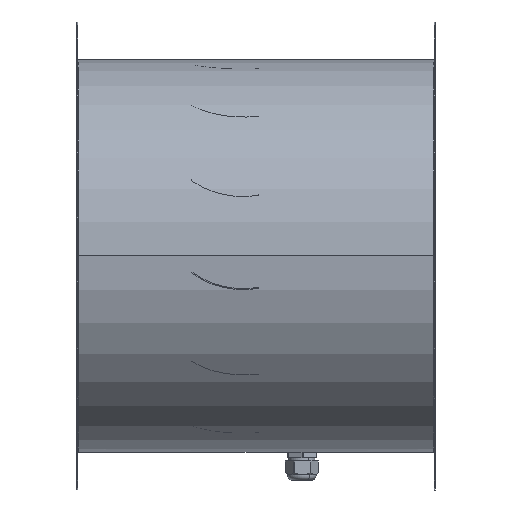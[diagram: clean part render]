
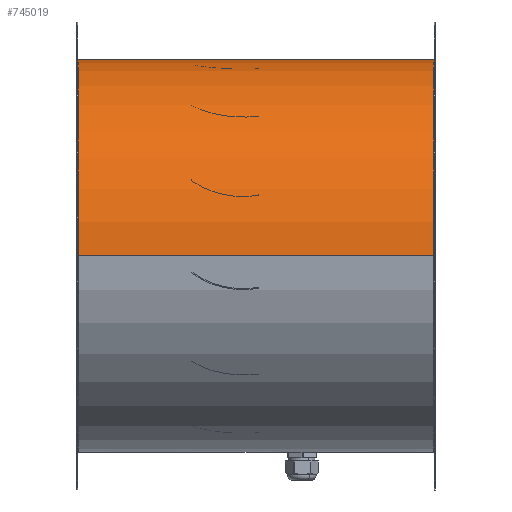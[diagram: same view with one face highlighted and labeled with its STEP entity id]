
A CAD part, top view. The second image highlights one B-rep face of the part: STEP entity #745019.
In plain terms, the highlighted cylindrical face has radius 201.25 mm (diameter 402.5 mm), a partial arc.
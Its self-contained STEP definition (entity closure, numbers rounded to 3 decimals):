
#6123 = DIRECTION ( 'NONE',  ( 1., 0., 0. ) ) ;
#10483 = LINE ( 'NONE', #108294, #341210 ) ;
#21350 = ORIENTED_EDGE ( 'NONE', *, *, #464435, .T. ) ;
#22162 = DIRECTION ( 'NONE',  ( 1., 0., 0. ) ) ;
#28507 = CARTESIAN_POINT ( 'NONE',  ( 264.5, 3.019, -201.227 ) ) ;
#31516 = CYLINDRICAL_SURFACE ( 'NONE', #72820, 201.25 ) ;
#53107 = CARTESIAN_POINT ( 'NONE',  ( -98.5, 0., 0. ) ) ;
#63944 = CARTESIAN_POINT ( 'NONE',  ( -98.5, 0., -201.25 ) ) ;
#65512 = ORIENTED_EDGE ( 'NONE', *, *, #483323, .F. ) ;
#70115 = CARTESIAN_POINT ( 'NONE',  ( -98.5, 0., -201.25 ) ) ;
#72621 = VECTOR ( 'NONE', #281962, 1000. ) ;
#72820 = AXIS2_PLACEMENT_3D ( 'NONE', #797503, #6123, #335413 ) ;
#82657 = CARTESIAN_POINT ( 'NONE',  ( -98.5, 3.019, -201.227 ) ) ;
#87011 = CARTESIAN_POINT ( 'NONE',  ( 265.125, 0., 0. ) ) ;
#87232 = EDGE_CURVE ( 'NONE', #405124, #447678, #159408, .T. ) ;
#108294 = CARTESIAN_POINT ( 'NONE',  ( -98.5, 0., -201.25 ) ) ;
#119533 = DIRECTION ( 'NONE',  ( 0., 0., 1. ) ) ;
#126804 = ORIENTED_EDGE ( 'NONE', *, *, #87232, .T. ) ;
#134357 = DIRECTION ( 'NONE',  ( 1., 0., 0. ) ) ;
#138680 = VECTOR ( 'NONE', #264525, 1000. ) ;
#142063 = CARTESIAN_POINT ( 'NONE',  ( -98.5, 0., 0. ) ) ;
#152048 = CIRCLE ( 'NONE', #358827, 201.25 ) ;
#153456 = DIRECTION ( 'NONE',  ( 0., 0., 1. ) ) ;
#155139 = DIRECTION ( 'NONE',  ( 1., 0., 0. ) ) ;
#159408 = LINE ( 'NONE', #394519, #138680 ) ;
#168308 = ORIENTED_EDGE ( 'NONE', *, *, #212312, .F. ) ;
#186081 = CIRCLE ( 'NONE', #678927, 201.25 ) ;
#186528 = ORIENTED_EDGE ( 'NONE', *, *, #813360, .T. ) ;
#191849 = CARTESIAN_POINT ( 'NONE',  ( -98.5, 3., -201.228 ) ) ;
#200756 = EDGE_CURVE ( 'NONE', #267826, #447678, #342017, .T. ) ;
#208516 = DIRECTION ( 'NONE',  ( 0., 0., 1. ) ) ;
#208788 = EDGE_CURVE ( 'NONE', #838041, #639958, #248405, .T. ) ;
#212312 = EDGE_CURVE ( 'NONE', #737970, #295815, #10483, .T. ) ;
#218607 = ORIENTED_EDGE ( 'NONE', *, *, #200756, .F. ) ;
#222790 = CIRCLE ( 'NONE', #721219, 201.25 ) ;
#238714 = CARTESIAN_POINT ( 'NONE',  ( 264.5, 3., -201.228 ) ) ;
#248405 = LINE ( 'NONE', #82657, #72621 ) ;
#253690 = EDGE_LOOP ( 'NONE', ( #168308, #186528, #126804, #218607, #65512, #21350, #508871, #415248, #705862, #743974 ) ) ;
#260415 = DIRECTION ( 'NONE',  ( 1., 0., 0. ) ) ;
#264525 = DIRECTION ( 'NONE',  ( 1., 0., 0. ) ) ;
#267826 = VERTEX_POINT ( 'NONE', #461585 ) ;
#281962 = DIRECTION ( 'NONE',  ( 1., 0., 0. ) ) ;
#289756 = EDGE_CURVE ( 'NONE', #586635, #838041, #222790, .T. ) ;
#295815 = VERTEX_POINT ( 'NONE', #70115 ) ;
#335413 = DIRECTION ( 'NONE',  ( 0., 0., 1. ) ) ;
#338111 = CARTESIAN_POINT ( 'NONE',  ( -99.125, 0., 201.25 ) ) ;
#341210 = VECTOR ( 'NONE', #437615, 1000. ) ;
#342017 = CIRCLE ( 'NONE', #620032, 201.25 ) ;
#356326 = CARTESIAN_POINT ( 'NONE',  ( -99.125, 0., -201.25 ) ) ;
#358827 = AXIS2_PLACEMENT_3D ( 'NONE', #530048, #134357, #596440 ) ;
#394519 = CARTESIAN_POINT ( 'NONE',  ( -98.5, 0., 201.25 ) ) ;
#405124 = VERTEX_POINT ( 'NONE', #338111 ) ;
#415248 = ORIENTED_EDGE ( 'NONE', *, *, #208788, .F. ) ;
#417872 = CARTESIAN_POINT ( 'NONE',  ( -99.125, 0., 0. ) ) ;
#437615 = DIRECTION ( 'NONE',  ( 1., 0., 0. ) ) ;
#440704 = CARTESIAN_POINT ( 'NONE',  ( 265.125, 0., 201.25 ) ) ;
#447678 = VERTEX_POINT ( 'NONE', #440704 ) ;
#461585 = CARTESIAN_POINT ( 'NONE',  ( 265.125, 0., -201.25 ) ) ;
#464435 = EDGE_CURVE ( 'NONE', #836147, #546583, #700858, .T. ) ;
#483323 = EDGE_CURVE ( 'NONE', #836147, #267826, #555024, .T. ) ;
#484286 = DIRECTION ( 'NONE',  ( 0., 0., 1. ) ) ;
#508871 = ORIENTED_EDGE ( 'NONE', *, *, #649084, .T. ) ;
#515238 = DIRECTION ( 'NONE',  ( 1., 0., 0. ) ) ;
#530048 = CARTESIAN_POINT ( 'NONE',  ( 264.5, 0., 0. ) ) ;
#534324 = VECTOR ( 'NONE', #260415, 1000. ) ;
#546583 = VERTEX_POINT ( 'NONE', #238714 ) ;
#549133 = DIRECTION ( 'NONE',  ( 1., 0., 0. ) ) ;
#550826 = CARTESIAN_POINT ( 'NONE',  ( 264.5, 0., 0. ) ) ;
#555024 = LINE ( 'NONE', #63944, #534324 ) ;
#558639 = FACE_OUTER_BOUND ( 'NONE', #253690, .T. ) ;
#586635 = VERTEX_POINT ( 'NONE', #191849 ) ;
#596440 = DIRECTION ( 'NONE',  ( 0., 0., 1. ) ) ;
#604146 = DIRECTION ( 'NONE',  ( 1., 0., 0. ) ) ;
#604497 = EDGE_CURVE ( 'NONE', #295815, #586635, #186081, .T. ) ;
#617237 = DIRECTION ( 'NONE',  ( 0., 0., 1. ) ) ;
#620032 = AXIS2_PLACEMENT_3D ( 'NONE', #87011, #549133, #153456 ) ;
#639958 = VERTEX_POINT ( 'NONE', #28507 ) ;
#649084 = EDGE_CURVE ( 'NONE', #546583, #639958, #152048, .T. ) ;
#678927 = AXIS2_PLACEMENT_3D ( 'NONE', #142063, #604146, #208516 ) ;
#700858 = CIRCLE ( 'NONE', #720844, 201.25 ) ;
#705862 = ORIENTED_EDGE ( 'NONE', *, *, #289756, .F. ) ;
#720844 = AXIS2_PLACEMENT_3D ( 'NONE', #550826, #155139, #617237 ) ;
#721219 = AXIS2_PLACEMENT_3D ( 'NONE', #53107, #515238, #119533 ) ;
#730252 = CIRCLE ( 'NONE', #843320, 201.25 ) ;
#737970 = VERTEX_POINT ( 'NONE', #356326 ) ;
#743974 = ORIENTED_EDGE ( 'NONE', *, *, #604497, .F. ) ;
#745019 = ADVANCED_FACE ( 'NONE', ( #558639 ), #31516, .T. ) ;
#786455 = CARTESIAN_POINT ( 'NONE',  ( -98.5, 3.019, -201.227 ) ) ;
#797503 = CARTESIAN_POINT ( 'NONE',  ( -98.5, 0., 0. ) ) ;
#813360 = EDGE_CURVE ( 'NONE', #737970, #405124, #730252, .T. ) ;
#830853 = CARTESIAN_POINT ( 'NONE',  ( 264.5, 0., -201.25 ) ) ;
#836147 = VERTEX_POINT ( 'NONE', #830853 ) ;
#838041 = VERTEX_POINT ( 'NONE', #786455 ) ;
#843320 = AXIS2_PLACEMENT_3D ( 'NONE', #417872, #22162, #484286 ) ;
